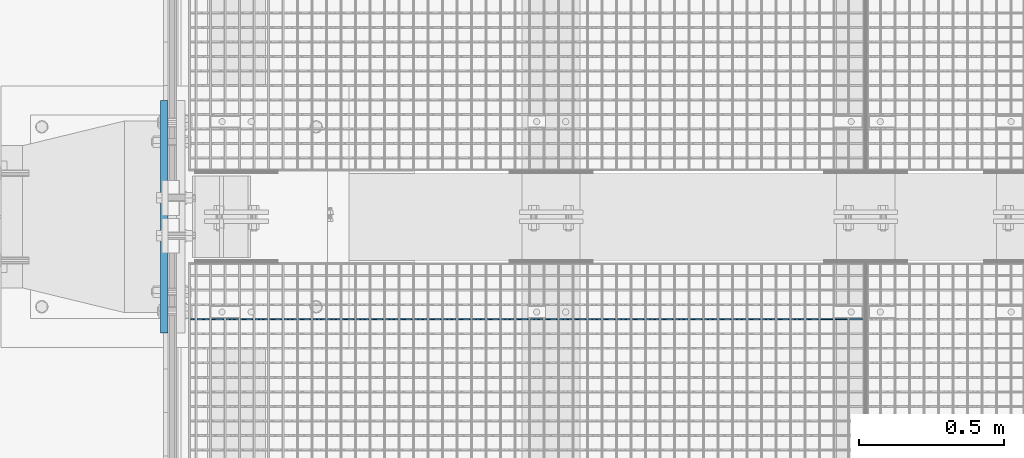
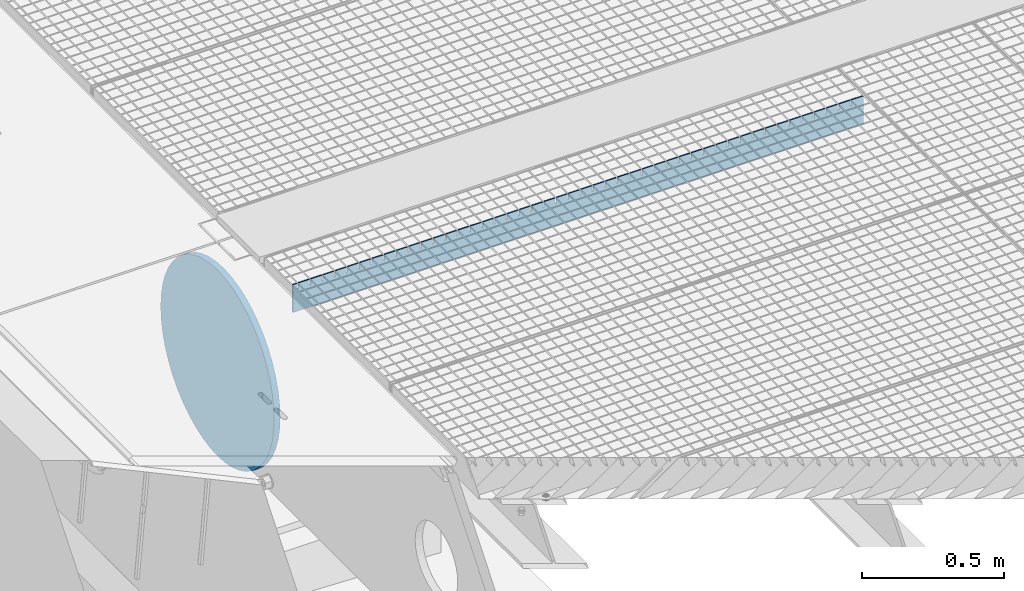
# One storey, part 289 of 1530: 2 beams.
"""IFC2X3 building model written with IfcOpenShell, lengths in millimetres."""

from ifc_helpers import new_model, si_unit, frame, origin_with_axes, place, context, subcontext, project, spatial, faceted_brep, material, type_object, element, save


model = new_model("IFC2X3")

# Units and contexts
model_context = context("Model", 3, precision=1e-05, world=origin_with_axes())
body_context = subcontext(model_context, "Body", "Model", "MODEL_VIEW")
ifc_project = project(units=[si_unit("LENGTHUNIT", "METRE", prefix="MILLI"), si_unit("AREAUNIT", "SQUARE_METRE"), si_unit("VOLUMEUNIT", "CUBIC_METRE"), si_unit("MASSUNIT", "GRAM", prefix="KILO"), si_unit("TIMEUNIT", "SECOND"), si_unit("PLANEANGLEUNIT", "RADIAN"), si_unit("SOLIDANGLEUNIT", "STERADIAN"), si_unit("THERMODYNAMICTEMPERATUREUNIT", "DEGREE_CELSIUS"), si_unit("LUMINOUSINTENSITYUNIT", "LUMEN")], contexts=[model_context])

# Site, building, storey
site_placement = place(None, origin_with_axes())
site = spatial("IfcSite", under=ifc_project, at=site_placement, Name="Brattvåg", CompositionType="ELEMENT")
building_placement = place(site_placement, origin_with_axes())
building = spatial("IfcBuilding", under=site, at=building_placement, Name="Undefined", CompositionType="ELEMENT")
storey_placement = place(building_placement, origin_with_axes())
storey = spatial("IfcBuildingStorey", under=building, at=storey_placement, Name="Undefined", CompositionType="ELEMENT", Elevation=0.0)

# Beams
ifc_material_1 = material(Name="STEEL/S355J2")
beam_type_1 = type_object("IfcBeamType", Name="120*5", PredefinedType="NOTDEFINED")
beam_1_placement = place(storey_placement, frame((2347.01317977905, 5646.99449157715, -59.9998626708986), z_axis=(0.0, 0.0, 1.0), x_axis=(-1.0, 1.99999855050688e-09, 0.0)))
element("IfcBeam", 1, at=beam_1_placement, inside=storey, type_object=beam_type_1, material=ifc_material_1, Name="GRATING", context=body_context, shape_type="Brep", body=[
    faceted_brep([(99.4490367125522, -2.50000000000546, 60.0000722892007), (99.4490367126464, -2.50000000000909, 35.0001373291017), (99.4490367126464, 2.50022888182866, 35.0001373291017), (99.4490367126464, 2.5, 60.0), (104.449036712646, -2.50000000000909, 35.0001373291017), (104.449036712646, 2.50022888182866, 35.0001373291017), (104.449036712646, -2.50000000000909, 60.0001373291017), (104.449036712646, 2.5, 60.0), (54.5084370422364, -2.50000000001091, 60.0001373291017), (54.5084370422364, 2.5, 60.0), (54.5084370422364, 2.49999999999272, 35.0001373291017), (54.5084370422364, -2.50000000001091, 35.0001373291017), (49.5084370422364, 2.49999999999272, 35.0001373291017), (49.5084370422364, -2.50000000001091, 35.0001373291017), (49.5084370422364, -2.5, 60.0), (49.5084370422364, 2.5, 60.0), (0.0, 2.5, 60.0), (0.0, -2.5, 60.0), (0.0, -2.5, -60.0), (0.0, 2.5, -60.0), (2319.99865722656, 2.5, -60.0), (2319.99865722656, -2.5, -60.0), (2319.99865722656, -2.5, 60.0), (2319.99865722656, 2.5, 60.0), (2302.24871932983, 2.5, 60.0), (2302.24871932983, -2.50000000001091, 60.0001373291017), (2302.24871932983, 2.49999999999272, 35.0001373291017), (2302.24871932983, -2.50000000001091, 35.0001373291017), (2297.24871932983, 2.49999999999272, 35.0001373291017), (2297.24871932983, -2.50000000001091, 35.0001373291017), (2297.24871932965, -2.50000000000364, 60.0000461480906), (2297.24871932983, 2.5, 60.0), (2252.29859649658, 2.5, 60.0), (2252.29859649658, -2.50000000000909, 60.0001373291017), (2252.29859649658, 2.50022888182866, 35.0001373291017), (2252.29859649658, -2.50000000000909, 35.0001373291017), (2247.29859649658, 2.50022888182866, 35.0001373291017), (2247.29859649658, -2.50000000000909, 35.0001373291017), (2247.29859649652, -2.50000000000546, 60.0000848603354), (2247.29859649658, 2.5, 60.0), (2202.34847366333, 2.5, 60.0), (2202.34847366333, -2.50000000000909, 60.0001373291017), (2202.34847366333, 2.50022888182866, 35.0001373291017), (2202.34847366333, -2.50000000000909, 35.0001373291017), (2197.34847366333, 2.50022888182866, 35.0001373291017), (2197.34847366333, -2.50000000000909, 35.0001373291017), (2197.34847366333, -2.5, 60.0), (2197.34847366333, 2.5, 60.0), (2152.39882766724, 2.5, 60.0), (2152.39882766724, -2.50000000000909, 60.0001373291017), (2152.39882766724, 2.50022888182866, 35.0001373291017), (2152.39882766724, -2.50000000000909, 35.0001373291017), (2147.39882766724, 2.50022888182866, 35.0001373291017), (2147.39882766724, -2.50000000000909, 35.0001373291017), (2147.39882766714, -2.50000000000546, 60.0000722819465), (2147.39882766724, 2.5, 60.0), (2102.44870483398, 2.5, 60.0), (2102.44870483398, -2.50000000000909, 60.0001373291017), (2102.44870483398, 2.50022888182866, 35.0001373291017), (2102.44870483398, -2.50000000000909, 35.0001373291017), (2097.44870483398, 2.50022888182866, 35.0001373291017), (2097.44870483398, -2.50000000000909, 35.0001373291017), (2097.44870483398, -2.5, 60.0), (2097.44870483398, 2.5, 60.0), (2052.49858200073, 2.5, 60.0), (2052.49858200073, -2.50000000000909, 60.0001373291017), (2052.49858200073, 2.50022888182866, 35.0001373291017), (2052.49858200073, -2.50000000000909, 35.0001373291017), (2047.49858200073, 2.50022888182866, 35.0001373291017), (2047.49858200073, -2.50000000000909, 35.0001373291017), (2047.49858200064, -2.50000000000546, 60.0000722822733), (2047.49858200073, 2.5, 60.0), (2002.54845916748, 2.5, 60.0), (2002.54845916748, -2.50000000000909, 60.0001373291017), (2002.54845916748, 2.50022888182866, 35.0001373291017), (2002.54845916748, -2.50000000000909, 35.0001373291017), (1997.54845916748, 2.50022888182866, 35.0001373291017), (1997.54845916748, -2.50000000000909, 35.0001373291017), (1997.54845916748, -2.5, 60.0), (1997.54845916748, 2.5, 60.0), (1952.59881317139, 2.5, 60.0), (1952.59881317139, -2.50000000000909, 60.0001373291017), (1952.59881317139, 2.50022888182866, 35.0001373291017), (1952.59881317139, -2.50000000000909, 35.0001373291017), (1947.59881317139, 2.50022888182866, 35.0001373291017), (1947.59881317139, -2.50000000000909, 35.0001373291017), (1947.59881317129, -2.50000000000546, 60.0000722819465), (1947.59881317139, 2.5, 60.0), (1902.64869033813, 2.5, 60.0), (1902.64869033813, -2.50000000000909, 60.0001373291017), (1902.64869033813, 2.50022888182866, 35.0001373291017), (1902.64869033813, -2.50000000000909, 35.0001373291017), (1897.64869033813, 2.50022888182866, 35.0001373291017), (1897.64869033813, -2.50000000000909, 35.0001373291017), (1897.64869033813, -2.5, 60.0), (1897.64869033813, 2.5, 60.0), (1852.69856750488, 2.5, 60.0), (1852.69856750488, -2.50000000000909, 60.0001373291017), (1852.69856750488, 2.50022888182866, 35.0001373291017), (1852.69856750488, -2.50000000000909, 35.0001373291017), (1847.69856750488, 2.50022888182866, 35.0001373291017), (1847.69856750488, -2.50000000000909, 35.0001373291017), (1847.69856750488, -2.5, 60.0), (1847.69856750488, 2.5, 60.0), (1802.74892150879, 2.5, 60.0), (1802.74892150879, -2.50000000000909, 60.0001373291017), (1802.74892150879, 2.50022888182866, 35.0001373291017), (1802.74892150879, -2.50000000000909, 35.0001373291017), (1797.74892150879, 2.50022888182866, 35.0001373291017), (1797.74892150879, -2.50000000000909, 35.0001373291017), (1797.74892150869, -2.50000000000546, 60.0000722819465), (1797.74892150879, 2.5, 60.0), (1752.79879867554, 2.5, 60.0), (1752.79879867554, -2.50000000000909, 60.0001373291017), (1752.79879867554, 2.50022888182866, 35.0001373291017), (1752.79879867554, -2.50000000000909, 35.0001373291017), (1747.79879867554, 2.50022888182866, 35.0001373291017), (1747.79879867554, -2.50000000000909, 35.0001373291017), (1747.79879867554, -2.5, 60.0), (1747.79879867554, 2.5, 60.0), (1702.84867584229, 2.5, 60.0), (1702.84867584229, -2.50000000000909, 60.0001373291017), (1702.84867584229, 2.50022888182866, 35.0001373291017), (1702.84867584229, -2.50000000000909, 35.0001373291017), (1697.84867584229, 2.50022888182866, 35.0001373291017), (1697.84867584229, -2.50000000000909, 35.0001373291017), (1697.84867584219, -2.50000000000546, 60.0000722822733), (1697.84867584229, 2.5, 60.0), (1652.89855300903, 2.5, 60.0), (1652.89855300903, -2.50000000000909, 60.0001373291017), (1652.89855300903, 2.50022888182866, 35.0001373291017), (1652.89855300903, -2.50000000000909, 35.0001373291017), (1647.89855300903, 2.50022888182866, 35.0001373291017), (1647.89855300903, -2.50000000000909, 35.0001373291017), (1647.89855300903, -2.5, 60.0), (1647.89855300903, 2.5, 60.0), (1602.94890701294, 2.5, 60.0), (1602.94890701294, -2.50000000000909, 60.0001373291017), (1602.94890701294, 2.50022888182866, 35.0001373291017), (1602.94890701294, -2.50000000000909, 35.0001373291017), (1597.94890701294, 2.50022888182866, 35.0001373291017), (1597.94890701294, -2.50000000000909, 35.0001373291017), (1597.94890701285, -2.50000000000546, 60.0000722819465), (1597.94890701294, 2.5, 60.0), (1552.99878417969, 2.5, 60.0), (1552.99878417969, -2.50000000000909, 60.0001373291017), (1552.99878417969, 2.50022888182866, 35.0001373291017), (1552.99878417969, -2.50000000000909, 35.0001373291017), (1547.99878417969, 2.50022888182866, 35.0001373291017), (1547.99878417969, -2.50000000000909, 35.0001373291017), (1547.99878417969, -2.5, 60.0), (1547.99878417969, 2.5, 60.0), (1503.04866134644, 2.5, 60.0), (1503.04866134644, -2.50000000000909, 60.0001373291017), (1503.04866134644, 2.50022888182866, 35.0001373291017), (1503.04866134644, -2.50000000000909, 35.0001373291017), (1498.04866134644, 2.50022888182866, 35.0001373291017), (1498.04866134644, -2.50000000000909, 35.0001373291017), (1498.04866134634, -2.50000000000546, 60.0000722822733), (1498.04866134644, 2.5, 60.0), (1453.09853851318, 2.5, 60.0), (1453.09853851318, -2.50000000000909, 60.0001373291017), (1453.09853851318, 2.50022888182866, 35.0001373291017), (1453.09853851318, -2.50000000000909, 35.0001373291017), (1448.09853851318, 2.50022888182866, 35.0001373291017), (1448.09853851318, -2.50000000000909, 35.0001373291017), (1448.09853851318, -2.5, 60.0), (1448.09853851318, 2.5, 60.0), (1403.14889251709, 2.5, 60.0), (1403.14889251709, -2.50000000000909, 60.0001373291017), (1403.14889251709, 2.50022888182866, 35.0001373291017), (1403.14889251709, -2.50000000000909, 35.0001373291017), (1398.14889251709, 2.50022888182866, 35.0001373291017), (1398.14889251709, -2.50000000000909, 35.0001373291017), (1398.148892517, -2.50000000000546, 60.0000722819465), (1398.14889251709, 2.5, 60.0), (1353.19876968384, 2.5, 60.0), (1353.19876968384, -2.50000000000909, 60.0001373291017), (1353.19876968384, 2.50022888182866, 35.0001373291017), (1353.19876968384, -2.50000000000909, 35.0001373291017), (1348.19876968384, 2.50022888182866, 35.0001373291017), (1348.19876968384, -2.50000000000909, 35.0001373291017), (1348.19876968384, -2.5, 60.0), (1348.19876968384, 2.5, 60.0), (1303.24864685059, 2.5, 60.0), (1303.24864685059, -2.50000000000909, 60.0001373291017), (1303.24864685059, 2.50022888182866, 35.0001373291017), (1303.24864685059, -2.50000000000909, 35.0001373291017), (1298.24864685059, 2.50022888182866, 35.0001373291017), (1298.24864685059, -2.50000000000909, 35.0001373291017), (1298.24864685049, -2.50000000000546, 60.0000722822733), (1298.24864685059, 2.5, 60.0), (1253.29852401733, 2.5, 60.0), (1253.29852401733, -2.50000000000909, 60.0001373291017), (1253.29852401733, 2.50022888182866, 35.0001373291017), (1253.29852401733, -2.50000000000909, 35.0001373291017), (1248.29852401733, 2.50022888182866, 35.0001373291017), (1248.29852401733, -2.50000000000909, 35.0001373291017), (1248.29852401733, -2.5, 60.0), (1248.29852401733, 2.5, 60.0), (1203.34887802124, 2.5, 60.0), (1203.34887802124, -2.50000000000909, 60.0001373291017), (1203.34887802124, 2.50022888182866, 35.0001373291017), (1203.34887802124, -2.50000000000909, 35.0001373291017), (1198.34887802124, 2.50022888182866, 35.0001373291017), (1198.34887802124, -2.50000000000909, 35.0001373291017), (1198.34887802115, -2.50000000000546, 60.0000722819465), (1198.34887802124, 2.5, 60.0), (1153.39875518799, 2.5, 60.0), (1153.39875518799, -2.50000000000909, 60.0001373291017), (1153.39875518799, 2.50022888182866, 35.0001373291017), (1153.39875518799, -2.50000000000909, 35.0001373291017), (1148.39875518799, 2.50022888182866, 35.0001373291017), (1148.39875518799, -2.50000000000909, 35.0001373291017), (1148.39875518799, -2.5, 60.0), (1148.39875518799, 2.5, 60.0), (1103.44863235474, 2.5, 60.0), (1103.44863235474, -2.50000000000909, 60.0001373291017), (1103.44863235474, 2.50022888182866, 35.0001373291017), (1103.44863235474, -2.50000000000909, 35.0001373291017), (1098.44863235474, 2.50022888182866, 35.0001373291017), (1098.44863235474, -2.50000000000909, 35.0001373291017), (1098.44863235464, -2.50000000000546, 60.0000722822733), (1098.44863235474, 2.5, 60.0), (1053.49850952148, 2.5, 60.0), (1053.49850952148, -2.50000000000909, 60.0001373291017), (1053.49850952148, 2.50022888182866, 35.0001373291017), (1053.49850952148, -2.50000000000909, 35.0001373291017), (1048.49850952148, 2.50022888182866, 35.0001373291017), (1048.49850952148, -2.50000000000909, 35.0001373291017), (1048.49850952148, -2.5, 60.0), (1048.49850952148, 2.5, 60.0), (1003.54886352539, 2.5, 60.0), (1003.54886352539, -2.50000000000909, 60.0001373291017), (1003.54886352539, 2.50022888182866, 35.0001373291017), (1003.54886352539, -2.50000000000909, 35.0001373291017), (998.548863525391, 2.50022888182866, 35.0001373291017), (998.548863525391, -2.50000000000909, 35.0001373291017), (998.548863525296, -2.50000000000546, 60.0000722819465), (998.548863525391, 2.5, 60.0), (953.598740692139, 2.5, 60.0), (953.598740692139, -2.50000000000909, 60.0001373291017), (953.598740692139, 2.50022888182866, 35.0001373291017), (953.598740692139, -2.50000000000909, 35.0001373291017), (948.598740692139, 2.50022888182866, 35.0001373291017), (948.598740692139, -2.50000000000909, 35.0001373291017), (948.598740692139, -2.5, 60.0), (948.598740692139, 2.5, 60.0), (903.648617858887, 2.5, 60.0), (903.648617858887, -2.50000000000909, 60.0001373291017), (903.648617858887, 2.50022888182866, 35.0001373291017), (903.648617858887, -2.50000000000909, 35.0001373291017), (898.648617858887, 2.50022888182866, 35.0001373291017), (898.648617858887, -2.50000000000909, 35.0001373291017), (898.648617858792, -2.50000000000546, 60.0000722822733), (898.648617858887, 2.5, 60.0), (853.698495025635, 2.5, 60.0), (853.698495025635, -2.50000000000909, 60.0001373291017), (853.698495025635, 2.50022888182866, 35.0001373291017), (853.698495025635, -2.50000000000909, 35.0001373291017), (848.698495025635, 2.50022888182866, 35.0001373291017), (848.698495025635, -2.50000000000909, 35.0001373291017), (848.698495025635, -2.5, 60.0), (848.698495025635, 2.5, 60.0), (803.748849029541, 2.5, 60.0), (803.748849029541, -2.50000000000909, 60.0001373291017), (803.748849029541, 2.50022888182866, 35.0001373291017), (803.748849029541, -2.50000000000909, 35.0001373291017), (798.748849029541, 2.50022888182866, 35.0001373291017), (798.748849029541, -2.50000000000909, 35.0001373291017), (798.748849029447, -2.50000000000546, 60.0000722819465), (798.748849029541, 2.5, 60.0), (753.798726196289, 2.5, 60.0), (753.798726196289, -2.50000000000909, 60.0001373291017), (753.798726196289, 2.50022888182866, 35.0001373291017), (753.798726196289, -2.50000000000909, 35.0001373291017), (748.798726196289, 2.50022888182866, 35.0001373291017), (748.798726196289, -2.50000000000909, 35.0001373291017), (748.798726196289, -2.5, 60.0), (748.798726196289, 2.5, 60.0), (703.848603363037, 2.5, 60.0), (703.848603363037, -2.50000000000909, 60.0001373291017), (703.848603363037, 2.50022888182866, 35.0001373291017), (703.848603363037, -2.50000000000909, 35.0001373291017), (698.848603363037, 2.50022888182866, 35.0001373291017), (698.848603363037, -2.50000000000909, 35.0001373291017), (698.848603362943, -2.50000000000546, 60.0000722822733), (698.848603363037, 2.5, 60.0), (653.898480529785, 2.5, 60.0), (653.898480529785, -2.50000000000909, 60.0001373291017), (653.898480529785, 2.50022888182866, 35.0001373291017), (653.898480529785, -2.50000000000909, 35.0001373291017), (648.898480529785, 2.50022888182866, 35.0001373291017), (648.898480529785, -2.50000000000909, 35.0001373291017), (648.898480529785, -2.5, 60.0), (648.898480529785, 2.5, 60.0), (603.948834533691, 2.5, 60.0), (603.948834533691, -2.50000000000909, 60.0001373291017), (603.948834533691, 2.50022888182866, 35.0001373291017), (603.948834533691, -2.50000000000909, 35.0001373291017), (598.948834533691, 2.50022888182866, 35.0001373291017), (598.948834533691, -2.50000000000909, 35.0001373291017), (598.948834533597, -2.50000000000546, 60.0000722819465), (598.948834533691, 2.5, 60.0), (553.998711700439, 2.5, 60.0), (553.998711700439, -2.50000000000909, 60.0001373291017), (553.998711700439, 2.50022888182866, 35.0001373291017), (553.998711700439, -2.50000000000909, 35.0001373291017), (548.998711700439, 2.50022888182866, 35.0001373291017), (548.998711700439, -2.50000000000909, 35.0001373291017), (548.998711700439, -2.5, 60.0), (548.998711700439, 2.5, 60.0), (504.048588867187, 2.5, 60.0), (504.048588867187, -2.50000000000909, 60.0001373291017), (504.048588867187, 2.50022888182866, 35.0001373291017), (504.048588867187, -2.50000000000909, 35.0001373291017), (499.048588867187, 2.50022888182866, 35.0001373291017), (499.048588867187, -2.50000000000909, 35.0001373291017), (499.048588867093, -2.50000000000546, 60.0000722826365), (499.048588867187, 2.5, 60.0), (454.098942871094, 2.5, 60.0), (454.098942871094, -2.50000000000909, 60.0001373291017), (454.098942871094, 2.50022888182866, 35.0001373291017), (454.098942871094, -2.50000000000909, 35.0001373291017), (449.098942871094, 2.50022888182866, 35.0001373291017), (449.098942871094, -2.50000000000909, 35.0001373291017), (449.098942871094, -2.5, 60.0), (449.098942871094, 2.5, 60.0), (404.148820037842, 2.5, 60.0), (404.148820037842, -2.50000000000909, 60.0001373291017), (404.148820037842, 2.50022888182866, 35.0001373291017), (404.148820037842, -2.50000000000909, 35.0001373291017), (399.148820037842, 2.50022888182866, 35.0001373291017), (399.148820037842, -2.50000000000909, 35.0001373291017), (399.148820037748, -2.50000000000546, 60.0000722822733), (399.148820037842, 2.5, 60.0), (354.19869720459, 2.5, 60.0), (354.19869720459, -2.50000000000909, 60.0001373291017), (354.19869720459, 2.50022888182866, 35.0001373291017), (354.19869720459, -2.50000000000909, 35.0001373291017), (349.19869720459, 2.50022888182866, 35.0001373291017), (349.19869720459, -2.50000000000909, 35.0001373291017), (349.19869720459, -2.5, 60.0), (349.19869720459, 2.5, 60.0), (304.248574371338, 2.5, 60.0), (304.248574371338, -2.50000000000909, 60.0001373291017), (304.248574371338, 2.50022888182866, 35.0001373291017), (304.248574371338, -2.50000000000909, 35.0001373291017), (299.248574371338, 2.50022888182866, 35.0001373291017), (299.248574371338, -2.50000000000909, 35.0001373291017), (299.248574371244, -2.50000000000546, 60.0000722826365), (299.248574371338, 2.5, 60.0), (254.298928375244, 2.5, 60.0), (254.298928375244, -2.50000000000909, 60.0001373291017), (254.298928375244, 2.50022888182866, 35.0001373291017), (254.298928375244, -2.50000000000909, 35.0001373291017), (249.298928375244, 2.50022888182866, 35.0001373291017), (249.298928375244, -2.50000000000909, 35.0001373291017), (249.298928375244, -2.5, 60.0), (249.298928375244, 2.5, 60.0), (204.348328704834, 2.5, 60.0), (204.348328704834, -2.50000000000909, 60.0001373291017), (204.348328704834, 2.50022888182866, 35.0001373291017), (204.348328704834, -2.50000000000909, 35.0001373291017), (199.348328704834, 2.50022888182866, 35.0001373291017), (199.348328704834, -2.50000000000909, 35.0001373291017), (199.34832870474, -2.50000000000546, 60.0000722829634), (199.348328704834, 2.5, 60.0), (154.39868270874, 2.5, 60.0), (154.39868270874, -2.50000000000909, 60.0001373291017), (154.39868270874, 2.50022888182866, 35.0001373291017), (154.39868270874, -2.50000000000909, 35.0001373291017), (149.39868270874, 2.50022888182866, 35.0001373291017), (149.39868270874, -2.50000000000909, 35.0001373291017), (149.39868270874, -2.5, 60.0), (149.39868270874, 2.5, 60.0)], [[[0, 1, 2, 3]], [[4, 5, 2, 1]], [[6, 7, 5, 4]], [[8, 9, 10, 11]], [[11, 10, 12, 13]], [[14, 13, 12, 15]], [[16, 17, 14, 15]], [[18, 17, 16, 19]], [[18, 19, 20, 21]], [[22, 21, 20, 23]], [[22, 23, 24, 25]], [[25, 24, 26, 27]], [[27, 26, 28, 29]], [[30, 29, 28, 31]], [[32, 33, 30, 31]], [[33, 32, 34, 35]], [[35, 34, 36, 37]], [[38, 37, 36, 39]], [[40, 41, 38, 39]], [[41, 40, 42, 43]], [[43, 42, 44, 45]], [[46, 45, 44, 47]], [[46, 47, 48, 49]], [[49, 48, 50, 51]], [[51, 50, 52, 53]], [[54, 53, 52, 55]], [[56, 57, 54, 55]], [[57, 56, 58, 59]], [[59, 58, 60, 61]], [[62, 61, 60, 63]], [[62, 63, 64, 65]], [[65, 64, 66, 67]], [[67, 66, 68, 69]], [[70, 69, 68, 71]], [[72, 73, 70, 71]], [[73, 72, 74, 75]], [[75, 74, 76, 77]], [[78, 77, 76, 79]], [[78, 79, 80, 81]], [[81, 80, 82, 83]], [[83, 82, 84, 85]], [[86, 85, 84, 87]], [[88, 89, 86, 87]], [[89, 88, 90, 91]], [[91, 90, 92, 93]], [[94, 93, 92, 95]], [[94, 95, 96, 97]], [[97, 96, 98, 99]], [[99, 98, 100, 101]], [[102, 101, 100, 103]], [[102, 103, 104, 105]], [[105, 104, 106, 107]], [[107, 106, 108, 109]], [[110, 109, 108, 111]], [[112, 113, 110, 111]], [[113, 112, 114, 115]], [[115, 114, 116, 117]], [[118, 117, 116, 119]], [[118, 119, 120, 121]], [[121, 120, 122, 123]], [[123, 122, 124, 125]], [[126, 125, 124, 127]], [[128, 129, 126, 127]], [[129, 128, 130, 131]], [[131, 130, 132, 133]], [[134, 133, 132, 135]], [[134, 135, 136, 137]], [[137, 136, 138, 139]], [[139, 138, 140, 141]], [[142, 141, 140, 143]], [[144, 145, 142, 143]], [[145, 144, 146, 147]], [[147, 146, 148, 149]], [[150, 149, 148, 151]], [[150, 151, 152, 153]], [[153, 152, 154, 155]], [[155, 154, 156, 157]], [[158, 157, 156, 159]], [[160, 161, 158, 159]], [[161, 160, 162, 163]], [[163, 162, 164, 165]], [[166, 165, 164, 167]], [[166, 167, 168, 169]], [[169, 168, 170, 171]], [[171, 170, 172, 173]], [[174, 173, 172, 175]], [[176, 177, 174, 175]], [[177, 176, 178, 179]], [[179, 178, 180, 181]], [[182, 181, 180, 183]], [[182, 183, 184, 185]], [[185, 184, 186, 187]], [[187, 186, 188, 189]], [[190, 189, 188, 191]], [[192, 193, 190, 191]], [[193, 192, 194, 195]], [[195, 194, 196, 197]], [[198, 197, 196, 199]], [[198, 199, 200, 201]], [[201, 200, 202, 203]], [[203, 202, 204, 205]], [[206, 205, 204, 207]], [[208, 209, 206, 207]], [[209, 208, 210, 211]], [[211, 210, 212, 213]], [[214, 213, 212, 215]], [[214, 215, 216, 217]], [[217, 216, 218, 219]], [[219, 218, 220, 221]], [[222, 221, 220, 223]], [[224, 225, 222, 223]], [[225, 224, 226, 227]], [[227, 226, 228, 229]], [[230, 229, 228, 231]], [[230, 231, 232, 233]], [[233, 232, 234, 235]], [[235, 234, 236, 237]], [[238, 237, 236, 239]], [[240, 241, 238, 239]], [[241, 240, 242, 243]], [[243, 242, 244, 245]], [[246, 245, 244, 247]], [[246, 247, 248, 249]], [[249, 248, 250, 251]], [[251, 250, 252, 253]], [[254, 253, 252, 255]], [[256, 257, 254, 255]], [[257, 256, 258, 259]], [[259, 258, 260, 261]], [[262, 261, 260, 263]], [[262, 263, 264, 265]], [[265, 264, 266, 267]], [[267, 266, 268, 269]], [[270, 269, 268, 271]], [[272, 273, 270, 271]], [[273, 272, 274, 275]], [[275, 274, 276, 277]], [[278, 277, 276, 279]], [[278, 279, 280, 281]], [[281, 280, 282, 283]], [[283, 282, 284, 285]], [[286, 285, 284, 287]], [[288, 289, 286, 287]], [[289, 288, 290, 291]], [[291, 290, 292, 293]], [[294, 293, 292, 295]], [[294, 295, 296, 297]], [[297, 296, 298, 299]], [[299, 298, 300, 301]], [[302, 301, 300, 303]], [[304, 305, 302, 303]], [[305, 304, 306, 307]], [[307, 306, 308, 309]], [[310, 309, 308, 311]], [[310, 311, 312, 313]], [[313, 312, 314, 315]], [[315, 314, 316, 317]], [[318, 317, 316, 319]], [[320, 321, 318, 319]], [[321, 320, 322, 323]], [[323, 322, 324, 325]], [[326, 325, 324, 327]], [[326, 327, 328, 329]], [[329, 328, 330, 331]], [[331, 330, 332, 333]], [[334, 333, 332, 335]], [[336, 337, 334, 335]], [[337, 336, 338, 339]], [[339, 338, 340, 341]], [[342, 341, 340, 343]], [[342, 343, 344, 345]], [[345, 344, 346, 347]], [[347, 346, 348, 349]], [[350, 349, 348, 351]], [[352, 353, 350, 351]], [[353, 352, 354, 355]], [[355, 354, 356, 357]], [[358, 357, 356, 359]], [[358, 359, 360, 361]], [[361, 360, 362, 363]], [[363, 362, 364, 365]], [[366, 365, 364, 367]], [[368, 369, 366, 367]], [[369, 368, 370, 371]], [[371, 370, 372, 373]], [[374, 373, 372, 375]], [[1, 0, 8, 11, 13, 14, 17, 18, 21, 22, 25, 27, 29, 30, 33, 35, 37, 38, 41, 43, 45, 46, 49, 51, 53, 54, 57, 59, 61, 62, 65, 67, 69, 70, 73, 75, 77, 78, 81, 83, 85, 86, 89, 91, 93, 94, 97, 99, 101, 102, 105, 107, 109, 110, 113, 115, 117, 118, 121, 123, 125, 126, 129, 131, 133, 134, 137, 139, 141, 142, 145, 147, 149, 150, 153, 155, 157, 158, 161, 163, 165, 166, 169, 171, 173, 174, 177, 179, 181, 182, 185, 187, 189, 190, 193, 195, 197, 198, 201, 203, 205, 206, 209, 211, 213, 214, 217, 219, 221, 222, 225, 227, 229, 230, 233, 235, 237, 238, 241, 243, 245, 246, 249, 251, 253, 254, 257, 259, 261, 262, 265, 267, 269, 270, 273, 275, 277, 278, 281, 283, 285, 286, 289, 291, 293, 294, 297, 299, 301, 302, 305, 307, 309, 310, 313, 315, 317, 318, 321, 323, 325, 326, 329, 331, 333, 334, 337, 339, 341, 342, 345, 347, 349, 350, 353, 355, 357, 358, 361, 363, 365, 366, 369, 371, 373, 374, 6, 4]], [[9, 8, 0, 3]], [[375, 372, 370, 368, 367, 364, 362, 360, 359, 356, 354, 352, 351, 348, 346, 344, 343, 340, 338, 336, 335, 332, 330, 328, 327, 324, 322, 320, 319, 316, 314, 312, 311, 308, 306, 304, 303, 300, 298, 296, 295, 292, 290, 288, 287, 284, 282, 280, 279, 276, 274, 272, 271, 268, 266, 264, 263, 260, 258, 256, 255, 252, 250, 248, 247, 244, 242, 240, 239, 236, 234, 232, 231, 228, 226, 224, 223, 220, 218, 216, 215, 212, 210, 208, 207, 204, 202, 200, 199, 196, 194, 192, 191, 188, 186, 184, 183, 180, 178, 176, 175, 172, 170, 168, 167, 164, 162, 160, 159, 156, 154, 152, 151, 148, 146, 144, 143, 140, 138, 136, 135, 132, 130, 128, 127, 124, 122, 120, 119, 116, 114, 112, 111, 108, 106, 104, 103, 100, 98, 96, 95, 92, 90, 88, 87, 84, 82, 80, 79, 76, 74, 72, 71, 68, 66, 64, 63, 60, 58, 56, 55, 52, 50, 48, 47, 44, 42, 40, 39, 36, 34, 32, 31, 28, 26, 24, 23, 20, 19, 16, 15, 12, 10, 9, 3, 2, 5, 7]], [[374, 375, 7, 6]]]),
])
ifc_material_2 = material(Name="MISCELLANEOUS/NULLVEKT")
beam_type_2 = type_object("IfcBeamType", Name="D800", PredefinedType="NOTDEFINED")
beam_2_placement = place(storey_placement, frame((-50.0046202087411, 5999.99719192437, -515.000125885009), z_axis=(0.0, 0.0, 1.0), x_axis=(-1.0, 1.99999855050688e-09, 0.0)))
element("IfcBeam", 2, at=beam_2_placement, inside=storey, type_object=beam_type_2, material=ifc_material_2, Name="STÅLBJELKE", context=body_context, shape_type="Brep", body=[
    faceted_brep([(0.0, -400.0, 0.0), (0.0, -396.577944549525, -52.210476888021), (25.0, -396.577944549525, -52.210476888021), (25.0, -400.0, 0.0), (0.0, -386.370330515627, -103.527618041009), (25.0, -386.370330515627, -103.527618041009), (0.0, -369.551813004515, -153.073372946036), (25.0, -369.551813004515, -153.073372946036), (0.0, -346.410161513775, -200.0), (25.0, -346.410161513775, -200.0), (0.0, -317.341336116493, -243.504571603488), (25.0, -317.341336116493, -243.504571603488), (0.0, -282.842712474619, -282.842712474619), (25.0, -282.842712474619, -282.842712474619), (0.0, -243.504571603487, -317.341336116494), (25.0, -243.504571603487, -317.341336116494), (0.0, -200.0, -346.410161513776), (25.0, -200.0, -346.410161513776), (0.0, -153.073372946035, -369.551813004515), (25.0, -153.073372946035, -369.551813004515), (0.0, -103.527618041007, -386.370330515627), (25.0, -103.527618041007, -386.370330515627), (0.0, -52.2104768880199, -396.577944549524), (25.0, -52.2104768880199, -396.577944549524), (0.0, 0.0, -400.0), (25.0, 0.0, -400.0), (0.0, 52.2104768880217, -396.577944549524), (25.0, 52.2104768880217, -396.577944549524), (0.0, 103.527618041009, -386.370330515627), (25.0, 103.527618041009, -386.370330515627), (0.0, 153.073372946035, -369.551813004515), (25.0, 153.073372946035, -369.551813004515), (0.0, 200.0, -346.410161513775), (25.0, 200.0, -346.410161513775), (0.0, 243.504571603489, -317.341336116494), (25.0, 243.504571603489, -317.341336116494), (0.0, 282.842712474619, -282.842712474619), (25.0, 282.842712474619, -282.842712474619), (0.0, 317.341336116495, -243.504571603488), (25.0, 317.341336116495, -243.504571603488), (0.0, 346.410161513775, -200.0), (25.0, 346.410161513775, -200.0), (0.0, 369.551813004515, -153.073372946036), (25.0, 369.551813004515, -153.073372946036), (0.0, 386.370330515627, -103.527618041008), (25.0, 386.370330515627, -103.527618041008), (0.0, 396.577944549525, -52.2104768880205), (25.0, 396.577944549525, -52.2104768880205), (0.0, 400.0, 0.0), (25.0, 400.0, 0.0), (0.0, 396.577944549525, 52.2104768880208), (25.0, 396.577944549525, 52.2104768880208), (0.0, 386.370330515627, 103.527618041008), (25.0, 386.370330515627, 103.527618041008), (0.0, 369.551813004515, 153.073372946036), (25.0, 369.551813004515, 153.073372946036), (0.0, 346.410161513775, 200.0), (25.0, 346.410161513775, 200.0), (0.0, 317.341336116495, 243.504571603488), (25.0, 317.341336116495, 243.504571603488), (0.0, 282.842712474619, 282.842712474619), (25.0, 282.842712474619, 282.842712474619), (0.0, 243.504571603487, 317.341336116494), (25.0, 243.504571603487, 317.341336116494), (0.0, 200.0, 346.410161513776), (25.0, 200.0, 346.410161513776), (0.0, 153.073372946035, 369.551813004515), (25.0, 153.073372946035, 369.551813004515), (0.0, 103.527618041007, 386.370330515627), (25.0, 103.527618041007, 386.370330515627), (0.0, 52.2104768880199, 396.577944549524), (25.0, 52.2104768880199, 396.577944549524), (0.0, 0.0, 400.0), (25.0, 0.0, 400.0), (0.0, -52.2104768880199, 396.577944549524), (25.0, -52.2104768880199, 396.577944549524), (0.0, -103.527618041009, 386.370330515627), (25.0, -103.527618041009, 386.370330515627), (0.0, -153.073372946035, 369.551813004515), (25.0, -153.073372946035, 369.551813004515), (0.0, -200.0, 346.410161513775), (25.0, -200.0, 346.410161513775), (0.0, -243.504571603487, 317.341336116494), (25.0, -243.504571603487, 317.341336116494), (0.0, -282.842712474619, 282.842712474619), (25.0, -282.842712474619, 282.842712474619), (0.0, -317.341336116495, 243.504571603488), (25.0, -317.341336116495, 243.504571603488), (0.0, -346.410161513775, 200.0), (25.0, -346.410161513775, 200.0), (0.0, -369.551813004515, 153.073372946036), (25.0, -369.551813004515, 153.073372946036), (0.0, -386.370330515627, 103.527618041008), (25.0, -386.370330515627, 103.527618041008), (0.0, -396.577944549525, 52.2104768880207), (25.0, -396.577944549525, 52.2104768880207)], [[[0, 1, 2, 3]], [[1, 4, 5, 2]], [[4, 6, 7, 5]], [[6, 8, 9, 7]], [[8, 10, 11, 9]], [[10, 12, 13, 11]], [[12, 14, 15, 13]], [[14, 16, 17, 15]], [[16, 18, 19, 17]], [[18, 20, 21, 19]], [[20, 22, 23, 21]], [[22, 24, 25, 23]], [[24, 26, 27, 25]], [[26, 28, 29, 27]], [[28, 30, 31, 29]], [[30, 32, 33, 31]], [[32, 34, 35, 33]], [[34, 36, 37, 35]], [[36, 38, 39, 37]], [[38, 40, 41, 39]], [[40, 42, 43, 41]], [[42, 44, 45, 43]], [[44, 46, 47, 45]], [[46, 48, 49, 47]], [[48, 50, 51, 49]], [[50, 52, 53, 51]], [[52, 54, 55, 53]], [[54, 56, 57, 55]], [[56, 58, 59, 57]], [[58, 60, 61, 59]], [[60, 62, 63, 61]], [[62, 64, 65, 63]], [[64, 66, 67, 65]], [[66, 68, 69, 67]], [[68, 70, 71, 69]], [[70, 72, 73, 71]], [[72, 74, 75, 73]], [[74, 76, 77, 75]], [[76, 78, 79, 77]], [[78, 80, 81, 79]], [[80, 82, 83, 81]], [[82, 84, 85, 83]], [[84, 86, 87, 85]], [[86, 88, 89, 87]], [[88, 90, 91, 89]], [[90, 92, 93, 91]], [[92, 94, 95, 93]], [[94, 0, 3, 95]], [[5, 7, 9, 11, 13, 15, 17, 19, 21, 23, 25, 27, 29, 31, 33, 35, 37, 39, 41, 43, 45, 47, 49, 51, 53, 55, 57, 59, 61, 63, 65, 67, 69, 71, 73, 75, 77, 79, 81, 83, 85, 87, 89, 91, 93, 95, 3, 2]], [[94, 92, 90, 88, 86, 84, 82, 80, 78, 76, 74, 72, 70, 68, 66, 64, 62, 60, 58, 56, 54, 52, 50, 48, 46, 44, 42, 40, 38, 36, 34, 32, 30, 28, 26, 24, 22, 20, 18, 16, 14, 12, 10, 8, 6, 4, 1, 0]]]),
])

save(model, "model.ifc")
